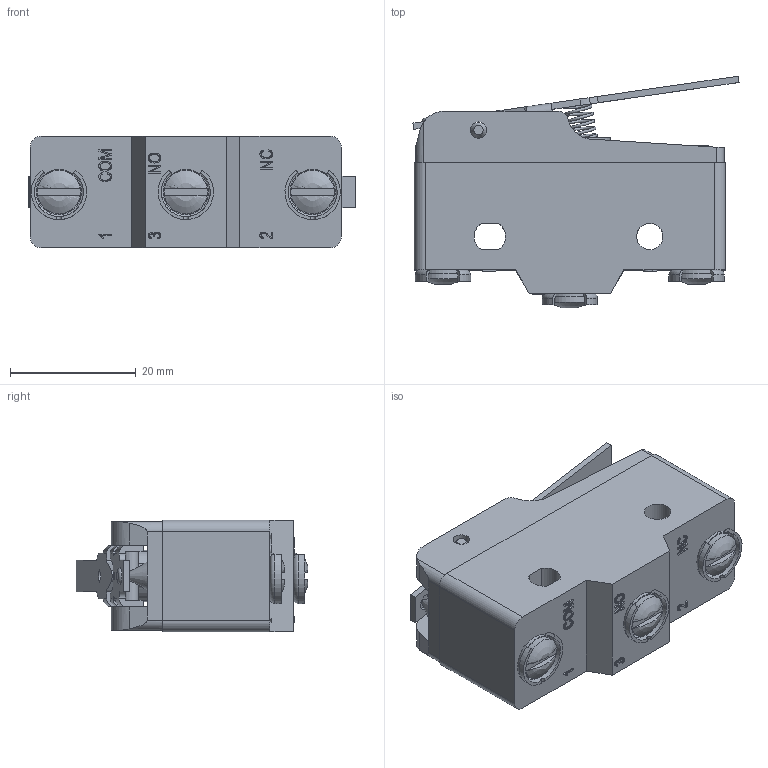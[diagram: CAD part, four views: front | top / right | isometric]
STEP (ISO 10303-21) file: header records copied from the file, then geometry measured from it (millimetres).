
FILE_DESCRIPTION((''),'2; 1');
FILE_NAME('','2026-03-27T16:22:25',(''),(''),'CST STEP Exporter V1.0','Unknown','');
FILE_SCHEMA(('CONFIG_CONTROL_DESIGN'));
Length unit declared in the file: metre
Assembly tree (12 placements, depth 2):
  (unnamed)
    (unnamed)
    (unnamed)
    (unnamed)
    (unnamed)
    (unnamed)
    (unnamed)
    (unnamed)
    (unnamed)
    (unnamed)
    (unnamed)
    (unnamed)
    (unnamed)
Bounding box: 51.81 x 36.79 x 17.7 mm (x, y, z)
Surface area: 15710.4 mm2 (no closed solid volume)
Topology: 0 solids, 13 shells, 466 faces, 1338 edges, 909 vertices
Faces by surface type: plane 315, cylinder 69, extrusion 62, torus 7, revolution 6, cone 3, sphere 2, bspline 2
Full cylindrical faces by diameter (mm): 2 x1, 2.4 x1, 2.5 x1, 2.6 x3, 4 x1, 4.2 x1, 6.9 x3, 8.2 x1
Entity records: 21550 total; most frequent: CARTESIAN_POINT 5952, ORIENTED_EDGE 2463, DIRECTION 2166, EDGE_CURVE 1305, VECTOR 973, LINE 911, VERTEX_POINT 877, AXIS2_PLACEMENT_3D 595
